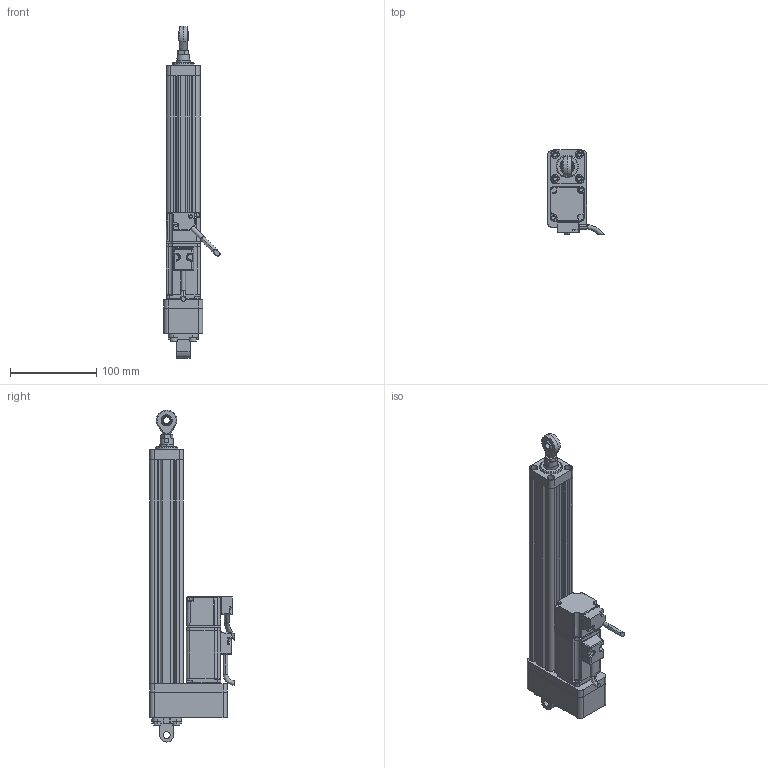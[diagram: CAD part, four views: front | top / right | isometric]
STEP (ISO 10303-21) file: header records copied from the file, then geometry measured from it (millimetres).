
FILE_DESCRIPTION (( 'STEP AP214' ), '1' );
FILE_NAME ('039-S200-D02-B-M5-C4-2.STEP', '2021-03-02T04:57:36', ( '' ), ( '' ), 'SwSTEP 2.0', 'SolidWorks 2018', '' );
FILE_SCHEMA (( 'AUTOMOTIVE_DESIGN' ));
Length unit declared in the file: millimetre
Products named in the file (10): GB／T6174-2000六角薄螺母无倒角M8; CMC039-HXT; F-ACE20CA_ACE_; BNC51-SA8T_K-R; CMC039-DT; CMC039-LJB; 039-S200-D02-B-M5-C4-2; ECMA-CX0401ES-40框號系列機種-100W低慣量系列; CMC039-FL; CMC039-GT
Assembly tree (9 placements, depth 2):
  039-S200-D02-B-M5-C4-2
    CMC039-GT
    CMC039-LJB
    CMC039-FL
    CMC039-DT
    ECMA-CX0401ES-40框號系列機種-100W低慣量系列
    CMC039-HXT
    F-ACE20CA_ACE_
    GB／T6174-2000六角薄螺母无倒角M8
    BNC51-SA8T_K-R
Bounding box: 65.34 x 97.89 x 386 mm (x, y, z)
Volume: 510171.3 mm3; surface area: 168717.8 mm2
Topology: 10 solids, 18 shells, 807 faces, 2112 edges, 1324 vertices
Faces by surface type: cylinder 327, plane 315, bspline 102, cone 63
Entity records: 32316 total; most frequent: CARTESIAN_POINT 12833, ORIENTED_EDGE 4138, DIRECTION 3501, EDGE_CURVE 2069, VERTEX_POINT 1324, AXIS2_PLACEMENT_3D 1253, VECTOR 995, LINE 995
